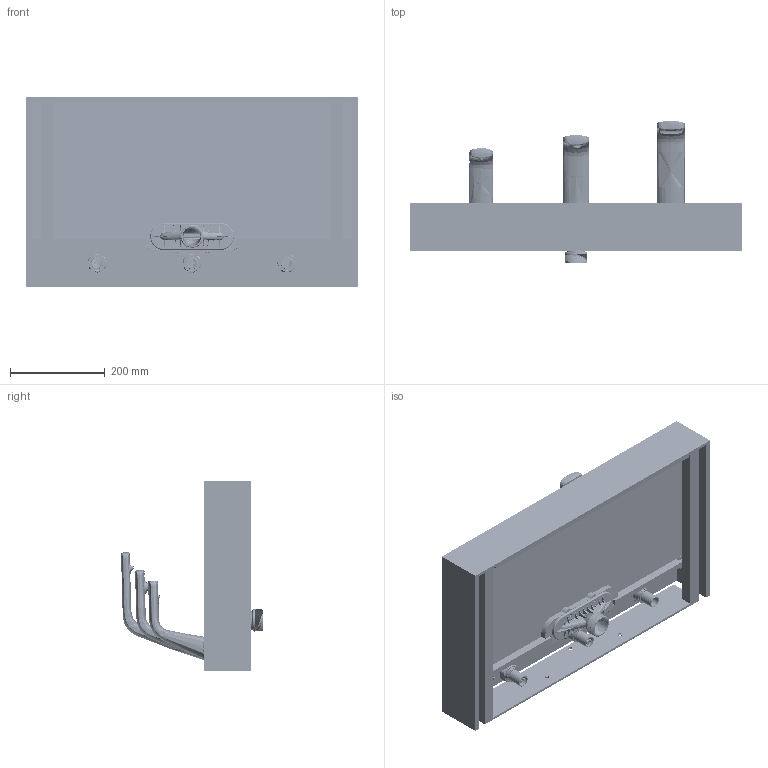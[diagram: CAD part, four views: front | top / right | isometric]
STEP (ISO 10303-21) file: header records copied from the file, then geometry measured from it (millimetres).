
FILE_DESCRIPTION (( 'STEP AP214' ), '1' );
FILE_NAME ('Ribbon Basin Assembly UK.STEP', '2024-02-14T13:59:29', ( '' ), ( '' ), 'SwSTEP 2.0', 'SolidWorks 2022', '' );
FILE_SCHEMA (( 'AUTOMOTIVE_DESIGN' ));
Length unit declared in the file: millimetre
Products named in the file (9): 20170404_DrainFunnel; waste plate_to suit small basin ; Ribbon Basin UK - 700x400x100; Waste Plate & Drainage Funnel Working; Ribbon Basin UK - Bracket_600mm; STEP file for the Ribbon_Dryer-20211019; Ribbon Basin Assembly UK; STEP file for the Ribbon FA-20211019_No Cables; STEP file for the Ribbon_Soap-20211019_No Cables
Assembly tree (8 placements, depth 3):
  Ribbon Basin Assembly UK
    Ribbon Basin UK - 700x400x100
    Ribbon Basin UK - Bracket_600mm
    STEP file for the Ribbon_Dryer-20211019
    STEP file for the Ribbon FA-20211019_No Cables
    STEP file for the Ribbon_Soap-20211019_No Cables
    Waste Plate & Drainage Funnel Working
      waste plate_to suit small basin 
      20170404_DrainFunnel
Bounding box: 700 x 299.61 x 400 mm (x, y, z)
Volume: 6357825.6 mm3; surface area: 1708557.7 mm2
Topology: 59 solids, 59 shells, 10288 faces, 26943 edges, 16302 vertices
Faces by surface type: cylinder 5352, bspline 2623, plane 1745, torus 275, cone 242, sphere 51
Entity records: 745552 total; most frequent: CARTESIAN_POINT 447666, ORIENTED_EDGE 52654, DIRECTION 46731, EDGE_CURVE 26327, AXIS2_PLACEMENT_3D 18601, VERTEX_POINT 16296, EDGE_LOOP 13703, CIRCLE 10924
